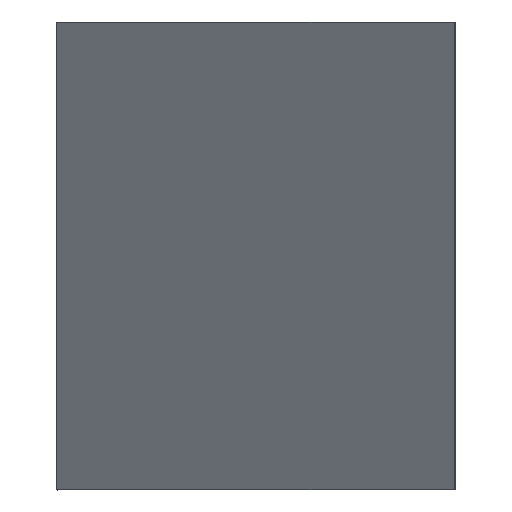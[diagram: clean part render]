
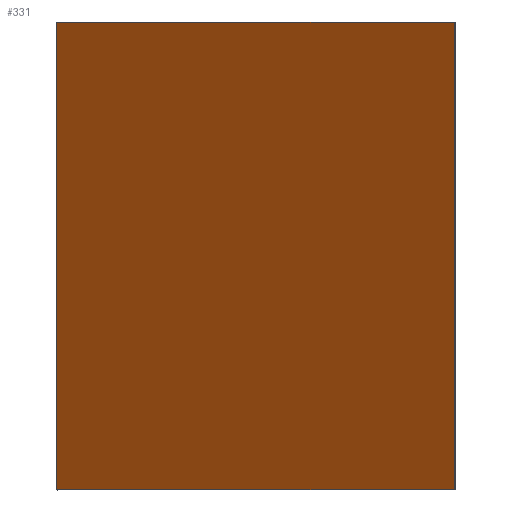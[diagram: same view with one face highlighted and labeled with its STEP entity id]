
A CAD part, top view. The second image highlights one B-rep face of the part: STEP entity #331.
In plain terms, the highlighted planar face has unit normal (-0.66, 0, 0.751).
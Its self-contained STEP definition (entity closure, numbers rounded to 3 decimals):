
#22 = VERTEX_POINT('',#23);
#23 = CARTESIAN_POINT('',(176.984,-138.913,
    173.99));
#32 = PLANE('',#33);
#33 = AXIS2_PLACEMENT_3D('',#34,#35,#36);
#34 = CARTESIAN_POINT('',(176.984,-138.913,
    173.99));
#35 = DIRECTION('',(0.,1.,0.));
#36 = DIRECTION('',(-0.751,0.,-0.66));
#44 = PLANE('',#45);
#45 = AXIS2_PLACEMENT_3D('',#46,#47,#48);
#46 = CARTESIAN_POINT('',(176.984,-94.913,
    173.99));
#47 = DIRECTION('',(-0.751,-0.,-0.66));
#48 = DIRECTION('',(0.,-1.,0.));
#85 = VERTEX_POINT('',#86);
#86 = CARTESIAN_POINT('',(139.593,-138.913,
    141.158));
#100 = PLANE('',#101);
#101 = AXIS2_PLACEMENT_3D('',#102,#103,#104);
#102 = CARTESIAN_POINT('',(139.593,-138.913,
    141.158));
#103 = DIRECTION('',(0.751,-0.,0.66));
#104 = DIRECTION('',(0.,1.,0.));
#112 = EDGE_CURVE('',#22,#85,#113,.T.);
#113 = SURFACE_CURVE('',#114,(#118,#125),.PCURVE_S1.);
#114 = LINE('',#115,#116);
#115 = CARTESIAN_POINT('',(176.984,-138.913,
    173.99));
#116 = VECTOR('',#117,1.);
#117 = DIRECTION('',(-0.751,0.,-0.66));
#118 = PCURVE('',#32,#119);
#119 = DEFINITIONAL_REPRESENTATION('',(#120),#124);
#120 = LINE('',#121,#122);
#121 = CARTESIAN_POINT('',(0.,0.));
#122 = VECTOR('',#123,1.);
#123 = DIRECTION('',(1.,0.));
#124 = ( GEOMETRIC_REPRESENTATION_CONTEXT(2) 
PARAMETRIC_REPRESENTATION_CONTEXT() REPRESENTATION_CONTEXT('2D SPACE',''
  ) );
#125 = PCURVE('',#126,#131);
#126 = PLANE('',#127);
#127 = AXIS2_PLACEMENT_3D('',#128,#129,#130);
#128 = CARTESIAN_POINT('',(158.288,-116.913,
    157.574));
#129 = DIRECTION('',(0.66,-0.,-0.751));
#130 = DIRECTION('',(-0.751,0.,-0.66));
#131 = DEFINITIONAL_REPRESENTATION('',(#132),#136);
#132 = LINE('',#133,#134);
#133 = CARTESIAN_POINT('',(-24.88,-22.));
#134 = VECTOR('',#135,1.);
#135 = DIRECTION('',(1.,0.));
#136 = ( GEOMETRIC_REPRESENTATION_CONTEXT(2) 
PARAMETRIC_REPRESENTATION_CONTEXT() REPRESENTATION_CONTEXT('2D SPACE',''
  ) );
#166 = VERTEX_POINT('',#167);
#167 = CARTESIAN_POINT('',(139.593,-94.913,
    141.158));
#181 = PLANE('',#182);
#182 = AXIS2_PLACEMENT_3D('',#183,#184,#185);
#183 = CARTESIAN_POINT('',(139.593,-94.913,
    141.158));
#184 = DIRECTION('',(0.,-1.,0.));
#185 = DIRECTION('',(0.751,0.,0.66));
#193 = EDGE_CURVE('',#85,#166,#194,.T.);
#194 = SURFACE_CURVE('',#195,(#199,#206),.PCURVE_S1.);
#195 = LINE('',#196,#197);
#196 = CARTESIAN_POINT('',(139.593,-138.913,
    141.158));
#197 = VECTOR('',#198,1.);
#198 = DIRECTION('',(0.,1.,0.));
#199 = PCURVE('',#100,#200);
#200 = DEFINITIONAL_REPRESENTATION('',(#201),#205);
#201 = LINE('',#202,#203);
#202 = CARTESIAN_POINT('',(0.,0.));
#203 = VECTOR('',#204,1.);
#204 = DIRECTION('',(1.,0.));
#205 = ( GEOMETRIC_REPRESENTATION_CONTEXT(2) 
PARAMETRIC_REPRESENTATION_CONTEXT() REPRESENTATION_CONTEXT('2D SPACE',''
  ) );
#206 = PCURVE('',#126,#207);
#207 = DEFINITIONAL_REPRESENTATION('',(#208),#212);
#208 = LINE('',#209,#210);
#209 = CARTESIAN_POINT('',(24.88,-22.));
#210 = VECTOR('',#211,1.);
#211 = DIRECTION('',(0.,1.));
#212 = ( GEOMETRIC_REPRESENTATION_CONTEXT(2) 
PARAMETRIC_REPRESENTATION_CONTEXT() REPRESENTATION_CONTEXT('2D SPACE',''
  ) );
#242 = VERTEX_POINT('',#243);
#243 = CARTESIAN_POINT('',(176.984,-94.913,
    173.99));
#264 = EDGE_CURVE('',#166,#242,#265,.T.);
#265 = SURFACE_CURVE('',#266,(#270,#277),.PCURVE_S1.);
#266 = LINE('',#267,#268);
#267 = CARTESIAN_POINT('',(139.593,-94.913,
    141.158));
#268 = VECTOR('',#269,1.);
#269 = DIRECTION('',(0.751,0.,0.66));
#270 = PCURVE('',#181,#271);
#271 = DEFINITIONAL_REPRESENTATION('',(#272),#276);
#272 = LINE('',#273,#274);
#273 = CARTESIAN_POINT('',(0.,0.));
#274 = VECTOR('',#275,1.);
#275 = DIRECTION('',(1.,0.));
#276 = ( GEOMETRIC_REPRESENTATION_CONTEXT(2) 
PARAMETRIC_REPRESENTATION_CONTEXT() REPRESENTATION_CONTEXT('2D SPACE',''
  ) );
#277 = PCURVE('',#126,#278);
#278 = DEFINITIONAL_REPRESENTATION('',(#279),#283);
#279 = LINE('',#280,#281);
#280 = CARTESIAN_POINT('',(24.88,22.));
#281 = VECTOR('',#282,1.);
#282 = DIRECTION('',(-1.,0.));
#283 = ( GEOMETRIC_REPRESENTATION_CONTEXT(2) 
PARAMETRIC_REPRESENTATION_CONTEXT() REPRESENTATION_CONTEXT('2D SPACE',''
  ) );
#311 = EDGE_CURVE('',#242,#22,#312,.T.);
#312 = SURFACE_CURVE('',#313,(#317,#324),.PCURVE_S1.);
#313 = LINE('',#314,#315);
#314 = CARTESIAN_POINT('',(176.984,-94.913,
    173.99));
#315 = VECTOR('',#316,1.);
#316 = DIRECTION('',(0.,-1.,0.));
#317 = PCURVE('',#44,#318);
#318 = DEFINITIONAL_REPRESENTATION('',(#319),#323);
#319 = LINE('',#320,#321);
#320 = CARTESIAN_POINT('',(0.,0.));
#321 = VECTOR('',#322,1.);
#322 = DIRECTION('',(1.,0.));
#323 = ( GEOMETRIC_REPRESENTATION_CONTEXT(2) 
PARAMETRIC_REPRESENTATION_CONTEXT() REPRESENTATION_CONTEXT('2D SPACE',''
  ) );
#324 = PCURVE('',#126,#325);
#325 = DEFINITIONAL_REPRESENTATION('',(#326),#330);
#326 = LINE('',#327,#328);
#327 = CARTESIAN_POINT('',(-24.88,22.));
#328 = VECTOR('',#329,1.);
#329 = DIRECTION('',(-0.,-1.));
#330 = ( GEOMETRIC_REPRESENTATION_CONTEXT(2) 
PARAMETRIC_REPRESENTATION_CONTEXT() REPRESENTATION_CONTEXT('2D SPACE',''
  ) );
#331 = ADVANCED_FACE('',(#332),#126,.F.);
#332 = FACE_BOUND('',#333,.F.);
#333 = EDGE_LOOP('',(#334,#335,#336,#337));
#334 = ORIENTED_EDGE('',*,*,#112,.T.);
#335 = ORIENTED_EDGE('',*,*,#193,.T.);
#336 = ORIENTED_EDGE('',*,*,#264,.T.);
#337 = ORIENTED_EDGE('',*,*,#311,.T.);
